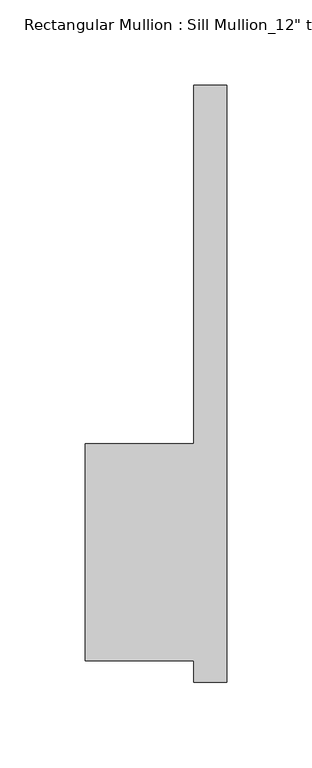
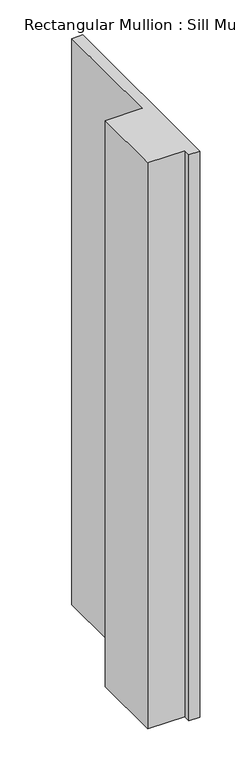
"""IFC4 building model written with IfcOpenShell, lengths in millimetres: member geometry."""

from ifc_helpers import new_model, si_unit, frame, origin, place, context, project, spatial, polyline, outline, extrude, source, transform, mapped, element, save


def member_9dc919dc(model_context):
    return source(origin(), model_context, "Body", "SweptSolid", [
        extrude(outline(polyline([(-82.55, 50.8), (-19.05, 50.8), (-19.05, 260.35), (0.0, 260.35), (0.0, -88.9), (-19.05, -88.9), (-19.05, -76.2), (-82.55, -76.2), (-82.55, 50.8)])), frame((0.0, 0.0, -1030.203044), z_axis=(0.0, 0.0, 1.0), x_axis=(1.0, 0.0, 0.0)), (0.0, 0.0, 1.0), 1030.203044),
    ])


if __name__ == "__main__":
    model = new_model("IFC4")
    model_context = context("Model", 3, world=origin())
    ifc_project = project(units=[si_unit("LENGTHUNIT", "METRE", prefix="MILLI")], contexts=[model_context])
    site = spatial("IfcSite", under=ifc_project)
    building = spatial("IfcBuilding", under=site)
    placement = place(None, origin())
    member_shape = member_9dc919dc(model_context)
    element("IfcMember", 1, ObjectType="Rectangular Mullion : Sill Mullion_12\" thick wall", at=placement, inside=building, context=model_context, shape_type="MappedRepresentation", body=[
        mapped(member_shape, transform((0.0, 0.0, 0.0), x_axis=(1.0, 0.0, 0.0), y_axis=(0.0, 1.0, 0.0), z_axis=(0.0, 0.0, 1.0))),
    ])
    save(model, "model.ifc")
